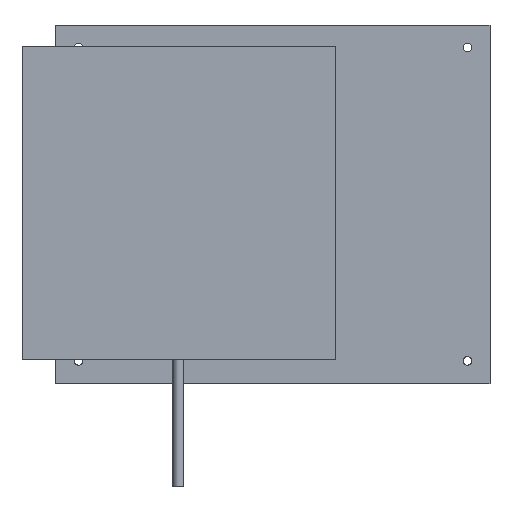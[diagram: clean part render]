
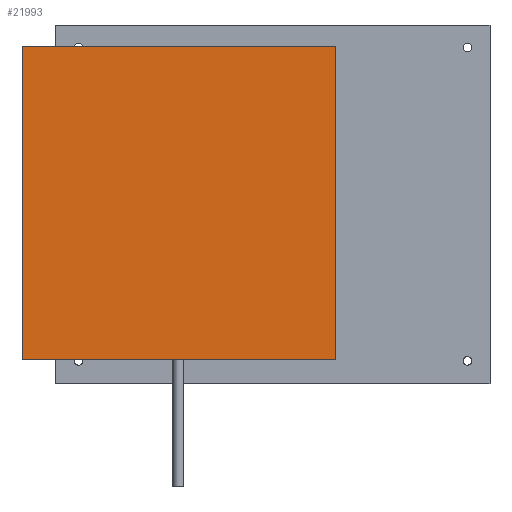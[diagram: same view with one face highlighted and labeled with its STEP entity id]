
A CAD part, top view. The second image highlights one B-rep face of the part: STEP entity #21993.
In plain terms, the highlighted planar face has unit normal (0, 0, 1).
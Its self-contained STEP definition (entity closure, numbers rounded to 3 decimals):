
#21804 = VERTEX_POINT('',#21805);
#21805 = CARTESIAN_POINT('',(-133.,-83.,402.7));
#21812 = PLANE('',#21813);
#21813 = AXIS2_PLACEMENT_3D('',#21814,#21815,#21816);
#21814 = CARTESIAN_POINT('',(-133.,-83.,397.7));
#21815 = DIRECTION('',(1.,0.,0.));
#21816 = DIRECTION('',(0.,0.,1.));
#21824 = PLANE('',#21825);
#21825 = AXIS2_PLACEMENT_3D('',#21826,#21827,#21828);
#21826 = CARTESIAN_POINT('',(-133.,-83.,397.7));
#21827 = DIRECTION('',(0.,1.,0.));
#21828 = DIRECTION('',(0.,0.,1.));
#21865 = VERTEX_POINT('',#21866);
#21866 = CARTESIAN_POINT('',(-133.,83.,402.7));
#21880 = PLANE('',#21881);
#21881 = AXIS2_PLACEMENT_3D('',#21882,#21883,#21884);
#21882 = CARTESIAN_POINT('',(-133.,83.,397.7));
#21883 = DIRECTION('',(0.,1.,0.));
#21884 = DIRECTION('',(0.,0.,1.));
#21892 = EDGE_CURVE('',#21804,#21865,#21893,.T.);
#21893 = SURFACE_CURVE('',#21894,(#21898,#21905),.PCURVE_S1.);
#21894 = LINE('',#21895,#21896);
#21895 = CARTESIAN_POINT('',(-133.,-83.,402.7));
#21896 = VECTOR('',#21897,1.);
#21897 = DIRECTION('',(0.,1.,0.));
#21898 = PCURVE('',#21812,#21899);
#21899 = DEFINITIONAL_REPRESENTATION('',(#21900),#21904);
#21900 = LINE('',#21901,#21902);
#21901 = CARTESIAN_POINT('',(5.,0.));
#21902 = VECTOR('',#21903,1.);
#21903 = DIRECTION('',(0.,-1.));
#21904 = ( GEOMETRIC_REPRESENTATION_CONTEXT(2) 
PARAMETRIC_REPRESENTATION_CONTEXT() REPRESENTATION_CONTEXT('2D SPACE',''
  ) );
#21905 = PCURVE('',#21906,#21911);
#21906 = PLANE('',#21907);
#21907 = AXIS2_PLACEMENT_3D('',#21908,#21909,#21910);
#21908 = CARTESIAN_POINT('',(-133.,-83.,402.7));
#21909 = DIRECTION('',(0.,0.,1.));
#21910 = DIRECTION('',(1.,0.,0.));
#21911 = DEFINITIONAL_REPRESENTATION('',(#21912),#21916);
#21912 = LINE('',#21913,#21914);
#21913 = CARTESIAN_POINT('',(0.,0.));
#21914 = VECTOR('',#21915,1.);
#21915 = DIRECTION('',(0.,1.));
#21916 = ( GEOMETRIC_REPRESENTATION_CONTEXT(2) 
PARAMETRIC_REPRESENTATION_CONTEXT() REPRESENTATION_CONTEXT('2D SPACE',''
  ) );
#21945 = EDGE_CURVE('',#21804,#21946,#21948,.T.);
#21946 = VERTEX_POINT('',#21947);
#21947 = CARTESIAN_POINT('',(33.,-83.,402.7));
#21948 = SURFACE_CURVE('',#21949,(#21953,#21960),.PCURVE_S1.);
#21949 = LINE('',#21950,#21951);
#21950 = CARTESIAN_POINT('',(-133.,-83.,402.7));
#21951 = VECTOR('',#21952,1.);
#21952 = DIRECTION('',(1.,0.,0.));
#21953 = PCURVE('',#21824,#21954);
#21954 = DEFINITIONAL_REPRESENTATION('',(#21955),#21959);
#21955 = LINE('',#21956,#21957);
#21956 = CARTESIAN_POINT('',(5.,0.));
#21957 = VECTOR('',#21958,1.);
#21958 = DIRECTION('',(0.,1.));
#21959 = ( GEOMETRIC_REPRESENTATION_CONTEXT(2) 
PARAMETRIC_REPRESENTATION_CONTEXT() REPRESENTATION_CONTEXT('2D SPACE',''
  ) );
#21960 = PCURVE('',#21906,#21961);
#21961 = DEFINITIONAL_REPRESENTATION('',(#21962),#21966);
#21962 = LINE('',#21963,#21964);
#21963 = CARTESIAN_POINT('',(0.,0.));
#21964 = VECTOR('',#21965,1.);
#21965 = DIRECTION('',(1.,0.));
#21966 = ( GEOMETRIC_REPRESENTATION_CONTEXT(2) 
PARAMETRIC_REPRESENTATION_CONTEXT() REPRESENTATION_CONTEXT('2D SPACE',''
  ) );
#21982 = PLANE('',#21983);
#21983 = AXIS2_PLACEMENT_3D('',#21984,#21985,#21986);
#21984 = CARTESIAN_POINT('',(33.,-83.,397.7));
#21985 = DIRECTION('',(1.,0.,0.));
#21986 = DIRECTION('',(0.,0.,1.));
#21993 = ADVANCED_FACE('',(#21994),#21906,.T.);
#21994 = FACE_BOUND('',#21995,.T.);
#21995 = EDGE_LOOP('',(#21996,#21997,#21998,#22021));
#21996 = ORIENTED_EDGE('',*,*,#21892,.F.);
#21997 = ORIENTED_EDGE('',*,*,#21945,.T.);
#21998 = ORIENTED_EDGE('',*,*,#21999,.T.);
#21999 = EDGE_CURVE('',#21946,#22000,#22002,.T.);
#22000 = VERTEX_POINT('',#22001);
#22001 = CARTESIAN_POINT('',(33.,83.,402.7));
#22002 = SURFACE_CURVE('',#22003,(#22007,#22014),.PCURVE_S1.);
#22003 = LINE('',#22004,#22005);
#22004 = CARTESIAN_POINT('',(33.,-83.,402.7));
#22005 = VECTOR('',#22006,1.);
#22006 = DIRECTION('',(0.,1.,0.));
#22007 = PCURVE('',#21906,#22008);
#22008 = DEFINITIONAL_REPRESENTATION('',(#22009),#22013);
#22009 = LINE('',#22010,#22011);
#22010 = CARTESIAN_POINT('',(166.,0.));
#22011 = VECTOR('',#22012,1.);
#22012 = DIRECTION('',(0.,1.));
#22013 = ( GEOMETRIC_REPRESENTATION_CONTEXT(2) 
PARAMETRIC_REPRESENTATION_CONTEXT() REPRESENTATION_CONTEXT('2D SPACE',''
  ) );
#22014 = PCURVE('',#21982,#22015);
#22015 = DEFINITIONAL_REPRESENTATION('',(#22016),#22020);
#22016 = LINE('',#22017,#22018);
#22017 = CARTESIAN_POINT('',(5.,0.));
#22018 = VECTOR('',#22019,1.);
#22019 = DIRECTION('',(0.,-1.));
#22020 = ( GEOMETRIC_REPRESENTATION_CONTEXT(2) 
PARAMETRIC_REPRESENTATION_CONTEXT() REPRESENTATION_CONTEXT('2D SPACE',''
  ) );
#22021 = ORIENTED_EDGE('',*,*,#22022,.F.);
#22022 = EDGE_CURVE('',#21865,#22000,#22023,.T.);
#22023 = SURFACE_CURVE('',#22024,(#22028,#22035),.PCURVE_S1.);
#22024 = LINE('',#22025,#22026);
#22025 = CARTESIAN_POINT('',(-133.,83.,402.7));
#22026 = VECTOR('',#22027,1.);
#22027 = DIRECTION('',(1.,0.,0.));
#22028 = PCURVE('',#21906,#22029);
#22029 = DEFINITIONAL_REPRESENTATION('',(#22030),#22034);
#22030 = LINE('',#22031,#22032);
#22031 = CARTESIAN_POINT('',(0.,166.));
#22032 = VECTOR('',#22033,1.);
#22033 = DIRECTION('',(1.,0.));
#22034 = ( GEOMETRIC_REPRESENTATION_CONTEXT(2) 
PARAMETRIC_REPRESENTATION_CONTEXT() REPRESENTATION_CONTEXT('2D SPACE',''
  ) );
#22035 = PCURVE('',#21880,#22036);
#22036 = DEFINITIONAL_REPRESENTATION('',(#22037),#22041);
#22037 = LINE('',#22038,#22039);
#22038 = CARTESIAN_POINT('',(5.,0.));
#22039 = VECTOR('',#22040,1.);
#22040 = DIRECTION('',(0.,1.));
#22041 = ( GEOMETRIC_REPRESENTATION_CONTEXT(2) 
PARAMETRIC_REPRESENTATION_CONTEXT() REPRESENTATION_CONTEXT('2D SPACE',''
  ) );
